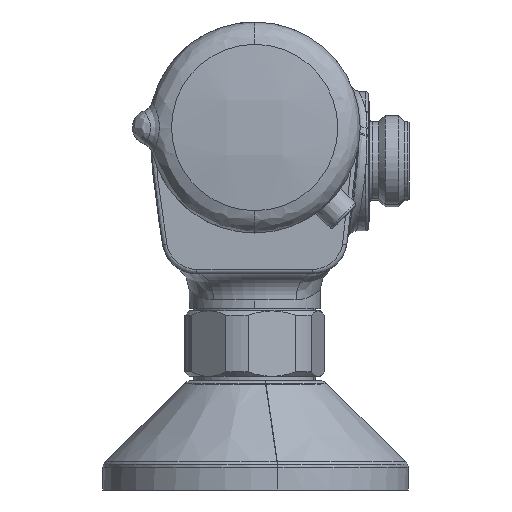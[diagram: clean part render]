
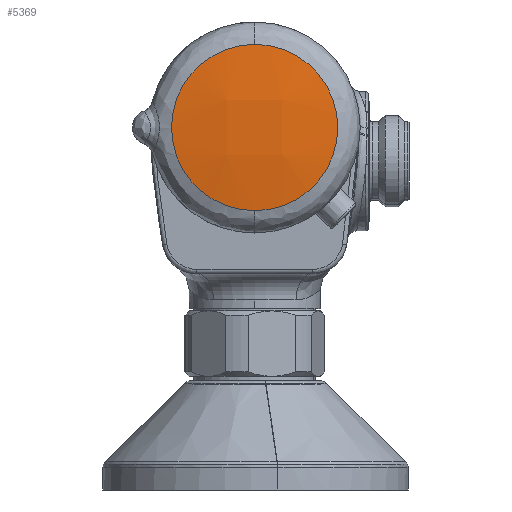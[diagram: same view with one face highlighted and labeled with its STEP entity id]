
A CAD part, left-side view. The second image highlights one B-rep face of the part: STEP entity #5369.
In plain terms, the highlighted free-form (B-spline) face has degree [3, 3] with [4, 4] control points.
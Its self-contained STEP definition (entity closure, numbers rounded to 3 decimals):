
#667 = DIRECTION ( 'NONE',  ( 0., 0., -1. ) ) ;
#1322 = CARTESIAN_POINT ( 'NONE',  ( -145.73, 6.493, 50.565 ) ) ;
#1404 = CARTESIAN_POINT ( 'NONE',  ( -145.726, -6.575, 50.565 ) ) ;
#1668 = DIRECTION ( 'NONE',  ( 1., 0., 0. ) ) ;
#2042 = FACE_OUTER_BOUND ( 'NONE', #4579, .T. ) ;
#2476 = CARTESIAN_POINT ( 'NONE',  ( -143.776, -6.477, 76.393 ) ) ;
#3123 = CARTESIAN_POINT ( 'NONE',  ( -143.347, 0., 76.051 ) ) ;
#3159 = CARTESIAN_POINT ( 'NONE',  ( -143.768, -19.496, 63.552 ) ) ;
#3408 = AXIS2_PLACEMENT_3D ( 'NONE', #9776, #5218, #667 ) ;
#3639 = AXIS2_PLACEMENT_3D ( 'NONE', #11791, #1668, #7058 ) ;
#3813 = VERTEX_POINT ( 'NONE', #3123 ) ;
#4042 = CARTESIAN_POINT ( 'NONE',  ( -141.881, 19.129, 37.721 ) ) ;
#4084 = CARTESIAN_POINT ( 'NONE',  ( -145.721, -6.575, 63.552 ) ) ;
#4579 = EDGE_LOOP ( 'NONE', ( #6271, #9206 ) ) ;
#5218 = DIRECTION ( 'NONE',  ( 1., 0., 0. ) ) ;
#5369 = ADVANCED_FACE ( 'NONE', ( #2042 ), #10913, .T. ) ;
#5447 = EDGE_CURVE ( 'NONE', #9876, #3813, #10968, .T. ) ;
#6067 = CARTESIAN_POINT ( 'NONE',  ( -143.78, 6.396, 76.393 ) ) ;
#6271 = ORIENTED_EDGE ( 'NONE', *, *, #5447, .F. ) ;
#6276 = EDGE_CURVE ( 'NONE', #3813, #9876, #10387, .T. ) ;
#6938 = CARTESIAN_POINT ( 'NONE',  ( -143.797, 6.397, 37.721 ) ) ;
#7058 = DIRECTION ( 'NONE',  ( 0., 0., -1. ) ) ;
#7790 = CARTESIAN_POINT ( 'NONE',  ( -143.786, 19.416, 50.565 ) ) ;
#8894 = CARTESIAN_POINT ( 'NONE',  ( -141.852, -19.206, 76.393 ) ) ;
#8925 = CARTESIAN_POINT ( 'NONE',  ( -141.864, 19.127, 76.393 ) ) ;
#9206 = ORIENTED_EDGE ( 'NONE', *, *, #6276, .F. ) ;
#9495 = CARTESIAN_POINT ( 'NONE',  ( -143.347, 0., 37.949 ) ) ;
#9583 = CARTESIAN_POINT ( 'NONE',  ( -143.793, -6.478, 37.721 ) ) ;
#9701 = CARTESIAN_POINT ( 'NONE',  ( -141.869, -19.209, 37.721 ) ) ;
#9776 = CARTESIAN_POINT ( 'NONE',  ( -143.347, 0., 57. ) ) ;
#9876 = VERTEX_POINT ( 'NONE', #9495 ) ;
#10387 = CIRCLE ( 'NONE', #3639, 19.051 ) ;
#10508 = CARTESIAN_POINT ( 'NONE',  ( -143.774, -19.497, 50.565 ) ) ;
#10913 =( BOUNDED_SURFACE ( )  B_SPLINE_SURFACE ( 3, 3, ( 
 ( #9701, #9583, #6938, #4042 ),
 ( #10508, #1404, #1322, #7790 ),
 ( #3159, #4084, #11475, #11718 ),
 ( #8894, #2476, #6067, #8925 ) ),
 .UNSPECIFIED., .F., .F., .T. ) 
 B_SPLINE_SURFACE_WITH_KNOTS ( ( 4, 4 ),
 ( 4, 4 ),
 ( 0., 1. ),
 ( 0., 1. ),
 .UNSPECIFIED. ) 
 GEOMETRIC_REPRESENTATION_ITEM ( )  RATIONAL_B_SPLINE_SURFACE ( (
 ( 1., 0.993, 0.993, 1.),
 ( 0.993, 0.985, 0.985, 0.993),
 ( 0.993, 0.985, 0.985, 0.993),
 ( 1., 0.993, 0.993, 1.) ) ) 
 REPRESENTATION_ITEM ( '' )  SURFACE ( )  );
#10968 = CIRCLE ( 'NONE', #3408, 19.051 ) ;
#11475 = CARTESIAN_POINT ( 'NONE',  ( -145.725, 6.493, 63.552 ) ) ;
#11718 = CARTESIAN_POINT ( 'NONE',  ( -143.78, 19.415, 63.552 ) ) ;
#11791 = CARTESIAN_POINT ( 'NONE',  ( -143.347, 0., 57. ) ) ;
